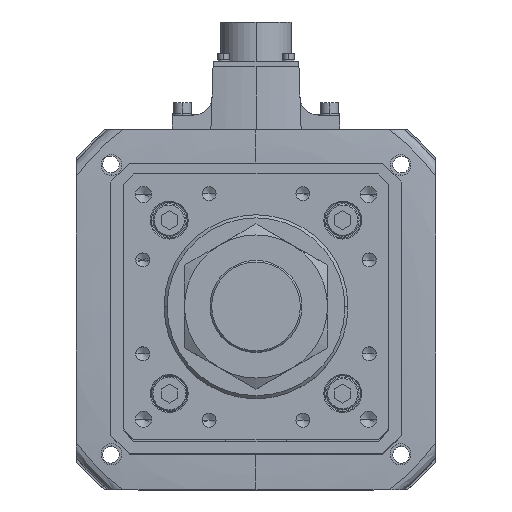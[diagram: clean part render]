
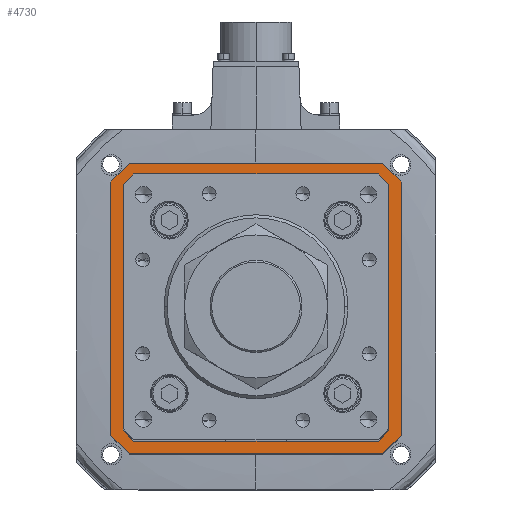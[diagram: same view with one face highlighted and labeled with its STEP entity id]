
A CAD part, top view. The second image highlights one B-rep face of the part: STEP entity #4730.
In plain terms, the highlighted planar face has unit normal (0, 0, 1).
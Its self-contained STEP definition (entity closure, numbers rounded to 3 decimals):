
#42 = VECTOR ( 'NONE', #15665, 1000. ) ;
#136 = VERTEX_POINT ( 'NONE', #44870 ) ;
#363 = CARTESIAN_POINT ( 'NONE',  ( 71., 62., -142. ) ) ;
#578 = CARTESIAN_POINT ( 'NONE',  ( -71., 62., -142. ) ) ;
#705 = VECTOR ( 'NONE', #24539, 1000. ) ;
#725 = VECTOR ( 'NONE', #17642, 1000. ) ;
#979 = VERTEX_POINT ( 'NONE', #44329 ) ;
#2344 = VERTEX_POINT ( 'NONE', #47949 ) ;
#2808 = DIRECTION ( 'NONE',  ( 0.707, 0.707, 0. ) ) ;
#3033 = VECTOR ( 'NONE', #13487, 1000. ) ;
#3285 = EDGE_CURVE ( 'NONE', #33549, #44796, #50681, .T. ) ;
#3540 = ORIENTED_EDGE ( 'NONE', *, *, #25908, .F. ) ;
#3589 = DIRECTION ( 'NONE',  ( -1., 0., 0. ) ) ;
#3973 = DIRECTION ( 'NONE',  ( 0.707, 0.707, 0. ) ) ;
#3982 = DIRECTION ( 'NONE',  ( -0.707, 0.707, 0. ) ) ;
#4173 = VERTEX_POINT ( 'NONE', #40258 ) ;
#4339 = ORIENTED_EDGE ( 'NONE', *, *, #12155, .F. ) ;
#4730 = ADVANCED_FACE ( 'NONE', ( #53949, #45906 ), #14267, .T. ) ;
#4927 = EDGE_CURVE ( 'NONE', #11246, #11849, #12597, .T. ) ;
#5066 = EDGE_LOOP ( 'NONE', ( #35618, #33432, #12032, #9458, #48690, #11219, #18468, #11941 ) ) ;
#5827 = VECTOR ( 'NONE', #37180, 1000. ) ;
#5842 = ORIENTED_EDGE ( 'NONE', *, *, #9278, .F. ) ;
#5956 = EDGE_CURVE ( 'NONE', #2344, #979, #17833, .T. ) ;
#8882 = CARTESIAN_POINT ( 'NONE',  ( -58.793, -63., -142. ) ) ;
#9278 = EDGE_CURVE ( 'NONE', #25546, #25127, #50860, .T. ) ;
#9458 = ORIENTED_EDGE ( 'NONE', *, *, #15362, .T. ) ;
#10133 = CARTESIAN_POINT ( 'NONE',  ( 0., 0., -142. ) ) ;
#10564 = VERTEX_POINT ( 'NONE', #53550 ) ;
#10673 = VECTOR ( 'NONE', #47662, 1000. ) ;
#10894 = CARTESIAN_POINT ( 'NONE',  ( -60.896, 60.896, -142. ) ) ;
#11219 = ORIENTED_EDGE ( 'NONE', *, *, #20971, .T. ) ;
#11246 = VERTEX_POINT ( 'NONE', #54624 ) ;
#11622 = CARTESIAN_POINT ( 'NONE',  ( 0., -63., -142. ) ) ;
#11849 = VERTEX_POINT ( 'NONE', #8882 ) ;
#11941 = ORIENTED_EDGE ( 'NONE', *, *, #3285, .T. ) ;
#12032 = ORIENTED_EDGE ( 'NONE', *, *, #4927, .T. ) ;
#12155 = EDGE_CURVE ( 'NONE', #979, #136, #19011, .T. ) ;
#12597 = LINE ( 'NONE', #11622, #50519 ) ;
#12787 = CARTESIAN_POINT ( 'NONE',  ( -62., 71., -142. ) ) ;
#13487 = DIRECTION ( 'NONE',  ( -0.707, -0.707, 0. ) ) ;
#14120 = CARTESIAN_POINT ( 'NONE',  ( 0., 63., -142. ) ) ;
#14140 = VERTEX_POINT ( 'NONE', #54954 ) ;
#14267 = PLANE ( 'NONE',  #40363 ) ;
#14802 = LINE ( 'NONE', #51403, #26093 ) ;
#14834 = DIRECTION ( 'NONE',  ( 1., 0., 0. ) ) ;
#15126 = ORIENTED_EDGE ( 'NONE', *, *, #19829, .F. ) ;
#15362 = EDGE_CURVE ( 'NONE', #11849, #52310, #14802, .T. ) ;
#15665 = DIRECTION ( 'NONE',  ( 0.707, -0.707, 0. ) ) ;
#16175 = CARTESIAN_POINT ( 'NONE',  ( -63., 0., -142. ) ) ;
#17067 = VECTOR ( 'NONE', #3982, 1000. ) ;
#17642 = DIRECTION ( 'NONE',  ( 0., -1., 0. ) ) ;
#17833 = LINE ( 'NONE', #53932, #5827 ) ;
#18468 = ORIENTED_EDGE ( 'NONE', *, *, #55334, .T. ) ;
#18480 = VECTOR ( 'NONE', #3973, 1000. ) ;
#18672 = CARTESIAN_POINT ( 'NONE',  ( 71., -62., -142. ) ) ;
#18714 = CARTESIAN_POINT ( 'NONE',  ( -71., 62., -142. ) ) ;
#18912 = DIRECTION ( 'NONE',  ( 1., 0., 0. ) ) ;
#19011 = LINE ( 'NONE', #50672, #17067 ) ;
#19829 = EDGE_CURVE ( 'NONE', #40802, #25546, #40604, .T. ) ;
#20395 = VERTEX_POINT ( 'NONE', #33506 ) ;
#20971 = EDGE_CURVE ( 'NONE', #10564, #4173, #21180, .T. ) ;
#21119 = EDGE_CURVE ( 'NONE', #20395, #37286, #26504, .T. ) ;
#21180 = LINE ( 'NONE', #10894, #18480 ) ;
#21708 = DIRECTION ( 'NONE',  ( 1., 0., 0. ) ) ;
#22353 = EDGE_CURVE ( 'NONE', #14140, #11246, #52335, .T. ) ;
#22686 = ORIENTED_EDGE ( 'NONE', *, *, #5956, .F. ) ;
#23055 = VECTOR ( 'NONE', #34202, 1000. ) ;
#23144 = DIRECTION ( 'NONE',  ( -0.707, 0.707, 0. ) ) ;
#24539 = DIRECTION ( 'NONE',  ( 0., 1., 0. ) ) ;
#25127 = VERTEX_POINT ( 'NONE', #27885 ) ;
#25257 = EDGE_CURVE ( 'NONE', #52310, #10564, #30759, .T. ) ;
#25338 = ORIENTED_EDGE ( 'NONE', *, *, #39579, .F. ) ;
#25546 = VERTEX_POINT ( 'NONE', #12787 ) ;
#25767 = CARTESIAN_POINT ( 'NONE',  ( 71., 62., -142. ) ) ;
#25908 = EDGE_CURVE ( 'NONE', #25127, #20395, #38049, .T. ) ;
#26093 = VECTOR ( 'NONE', #23144, 1000. ) ;
#26504 = LINE ( 'NONE', #25767, #27134 ) ;
#27134 = VECTOR ( 'NONE', #50842, 1000. ) ;
#27439 = LINE ( 'NONE', #55271, #725 ) ;
#27885 = CARTESIAN_POINT ( 'NONE',  ( 62., 71., -142. ) ) ;
#30178 = ORIENTED_EDGE ( 'NONE', *, *, #21119, .F. ) ;
#30434 = DIRECTION ( 'NONE',  ( 0., 1., 0. ) ) ;
#30759 = LINE ( 'NONE', #16175, #705 ) ;
#32402 = CARTESIAN_POINT ( 'NONE',  ( 60.896, 60.896, -142. ) ) ;
#33069 = LINE ( 'NONE', #14120, #35739 ) ;
#33432 = ORIENTED_EDGE ( 'NONE', *, *, #22353, .T. ) ;
#33506 = CARTESIAN_POINT ( 'NONE',  ( 71., 62., -142. ) ) ;
#33549 = VERTEX_POINT ( 'NONE', #45535 ) ;
#34202 = DIRECTION ( 'NONE',  ( -0.707, -0.707, 0. ) ) ;
#34375 = CARTESIAN_POINT ( 'NONE',  ( 60.896, -60.896, -142. ) ) ;
#34551 = CARTESIAN_POINT ( 'NONE',  ( 62., 71., -142. ) ) ;
#35618 = ORIENTED_EDGE ( 'NONE', *, *, #53620, .T. ) ;
#35708 = LINE ( 'NONE', #578, #49639 ) ;
#35739 = VECTOR ( 'NONE', #18912, 1000. ) ;
#37180 = DIRECTION ( 'NONE',  ( -1., 0., 0. ) ) ;
#37286 = VERTEX_POINT ( 'NONE', #18672 ) ;
#38049 = LINE ( 'NONE', #363, #10673 ) ;
#39574 = VECTOR ( 'NONE', #21708, 1000. ) ;
#39579 = EDGE_CURVE ( 'NONE', #136, #40802, #35708, .T. ) ;
#39671 = EDGE_CURVE ( 'NONE', #37286, #2344, #42351, .T. ) ;
#40258 = CARTESIAN_POINT ( 'NONE',  ( -58.793, 63., -142. ) ) ;
#40363 = AXIS2_PLACEMENT_3D ( 'NONE', #10133, #48452, #14834 ) ;
#40604 = LINE ( 'NONE', #49504, #45929 ) ;
#40802 = VERTEX_POINT ( 'NONE', #18714 ) ;
#42351 = LINE ( 'NONE', #52160, #3033 ) ;
#44329 = CARTESIAN_POINT ( 'NONE',  ( -62., -71., -142. ) ) ;
#44796 = VERTEX_POINT ( 'NONE', #45065 ) ;
#44870 = CARTESIAN_POINT ( 'NONE',  ( -71., -62., -142. ) ) ;
#45065 = CARTESIAN_POINT ( 'NONE',  ( 63., 58.793, -142. ) ) ;
#45535 = CARTESIAN_POINT ( 'NONE',  ( 58.793, 63., -142. ) ) ;
#45906 = FACE_OUTER_BOUND ( 'NONE', #47215, .T. ) ;
#45929 = VECTOR ( 'NONE', #2808, 1000. ) ;
#46697 = CARTESIAN_POINT ( 'NONE',  ( -63., -58.793, -142. ) ) ;
#47215 = EDGE_LOOP ( 'NONE', ( #5842, #15126, #25338, #4339, #22686, #55260, #30178, #3540 ) ) ;
#47662 = DIRECTION ( 'NONE',  ( 0.707, -0.707, 0. ) ) ;
#47949 = CARTESIAN_POINT ( 'NONE',  ( 62., -71., -142. ) ) ;
#48452 = DIRECTION ( 'NONE',  ( 0., 0., 1. ) ) ;
#48690 = ORIENTED_EDGE ( 'NONE', *, *, #25257, .T. ) ;
#49504 = CARTESIAN_POINT ( 'NONE',  ( -62., 71., -142. ) ) ;
#49639 = VECTOR ( 'NONE', #30434, 1000. ) ;
#50519 = VECTOR ( 'NONE', #3589, 1000. ) ;
#50672 = CARTESIAN_POINT ( 'NONE',  ( -62., -71., -142. ) ) ;
#50681 = LINE ( 'NONE', #32402, #42 ) ;
#50842 = DIRECTION ( 'NONE',  ( 0., -1., 0. ) ) ;
#50860 = LINE ( 'NONE', #34551, #39574 ) ;
#51403 = CARTESIAN_POINT ( 'NONE',  ( -60.896, -60.896, -142. ) ) ;
#52160 = CARTESIAN_POINT ( 'NONE',  ( 71., -62., -142. ) ) ;
#52310 = VERTEX_POINT ( 'NONE', #46697 ) ;
#52335 = LINE ( 'NONE', #34375, #23055 ) ;
#53550 = CARTESIAN_POINT ( 'NONE',  ( -63., 58.793, -142. ) ) ;
#53620 = EDGE_CURVE ( 'NONE', #44796, #14140, #27439, .T. ) ;
#53932 = CARTESIAN_POINT ( 'NONE',  ( 62., -71., -142. ) ) ;
#53949 = FACE_BOUND ( 'NONE', #5066, .T. ) ;
#54624 = CARTESIAN_POINT ( 'NONE',  ( 58.793, -63., -142. ) ) ;
#54954 = CARTESIAN_POINT ( 'NONE',  ( 63., -58.793, -142. ) ) ;
#55260 = ORIENTED_EDGE ( 'NONE', *, *, #39671, .F. ) ;
#55271 = CARTESIAN_POINT ( 'NONE',  ( 63., 0., -142. ) ) ;
#55334 = EDGE_CURVE ( 'NONE', #4173, #33549, #33069, .T. ) ;
